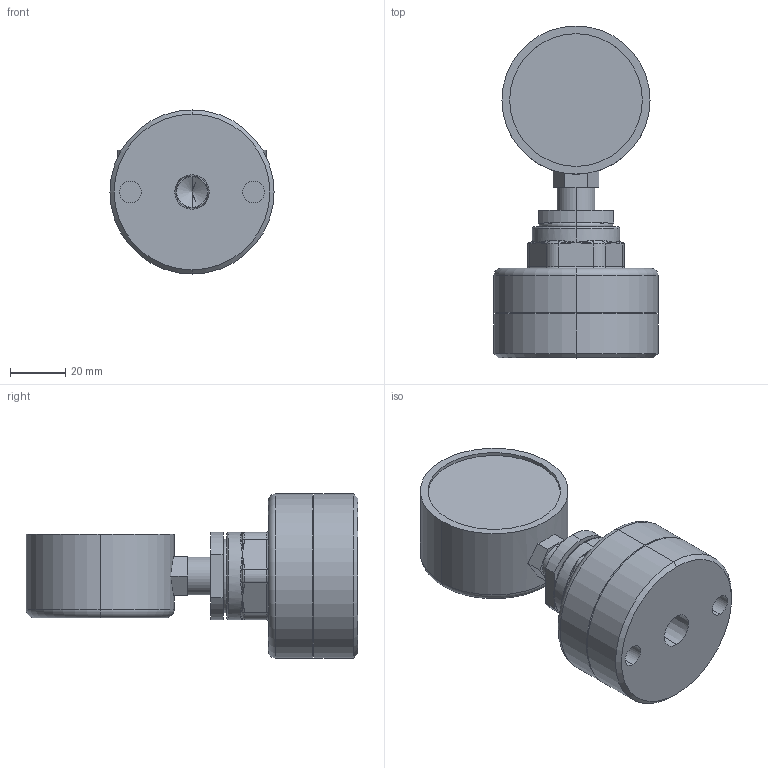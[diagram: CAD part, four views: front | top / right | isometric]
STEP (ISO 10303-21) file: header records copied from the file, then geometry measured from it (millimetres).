
FILE_DESCRIPTION (( 'STEP AP203' ), '1' );
FILE_NAME ('GG-025.STEP', '2016-03-09T10:08:11', ( '' ), ( '' ), 'SwSTEP 2.0', 'SolidWorks 2014', '' );
FILE_SCHEMA (( 'CONFIG_CONTROL_DESIGN' ));
Length unit declared in the file: inch
Products named in the file (2): GG-025
Bounding box: 59.69 x 120.65 x 59.69 mm (x, y, z)
Volume: 173428.9 mm3; surface area: 25294.9 mm2
Topology: 1 solids, 2 shells, 169 faces, 391 edges, 211 vertices
Faces by surface type: bspline 48, cylinder 47, plane 34, torus 30, cone 10
Entity records: 5564 total; most frequent: CARTESIAN_POINT 1971, ORIENTED_EDGE 730, DIRECTION 713, EDGE_CURVE 365, AXIS2_PLACEMENT_3D 313, VERTEX_POINT 211, CIRCLE 190, EDGE_LOOP 182
